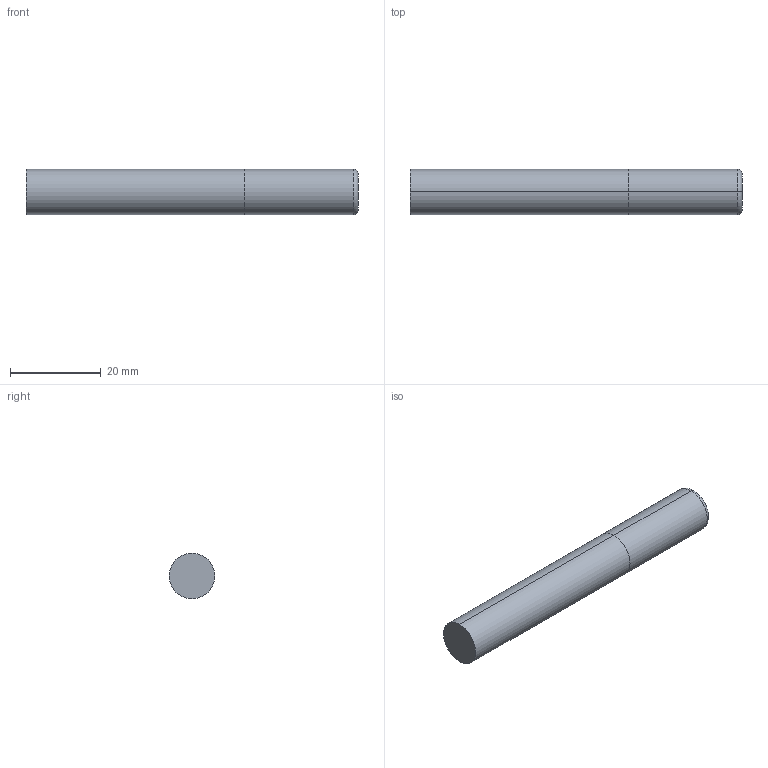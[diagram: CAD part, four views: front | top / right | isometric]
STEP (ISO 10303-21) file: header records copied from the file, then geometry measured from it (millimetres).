
FILE_DESCRIPTION (( 'STEP AP214' ), '1' );
FILE_NAME ('SSI510M-1.STEP', '2025-05-29T13:14:07', ( '' ), ( '' ), 'SwSTEP 2.0', 'SolidWorks 2023', '' );
FILE_SCHEMA (( 'AUTOMOTIVE_DESIGN' ));
Length unit declared in the file: millimetre
Products named in the file (3): SSI510M-1; SSI5 Metric CUTTING_SSI510M-1; SSI5 Metric SHANK_SSI510M-1
Assembly tree (2 placements, depth 2):
  SSI510M-1
    SSI5 Metric CUTTING_SSI510M-1
    SSI5 Metric SHANK_SSI510M-1
Bounding box: 73 x 10 x 10 mm (x, y, z)
Volume: 5727 mm3; surface area: 2593.6 mm2
Topology: 2 solids, 2 shells, 10 faces, 16 edges, 10 vertices
Faces by surface type: cylinder 4, plane 4, torus 2
Entity records: 324 total; most frequent: DIRECTION 58, CARTESIAN_POINT 41, ORIENTED_EDGE 32, AXIS2_PLACEMENT_3D 27, EDGE_CURVE 16, CIRCLE 12, FACE_OUTER_BOUND 10, EDGE_LOOP 10
